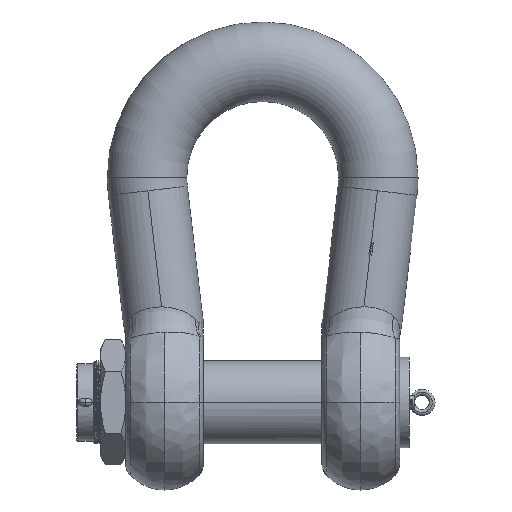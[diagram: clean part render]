
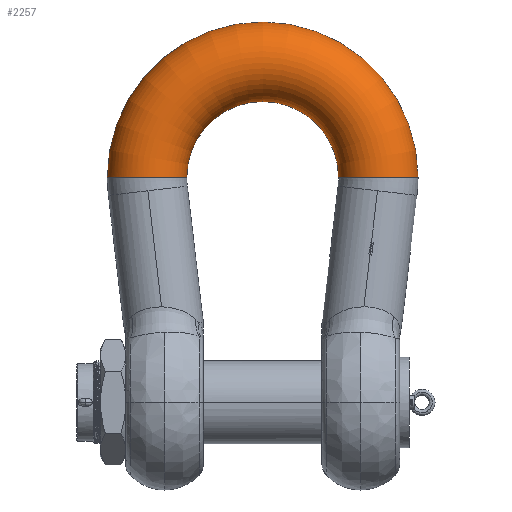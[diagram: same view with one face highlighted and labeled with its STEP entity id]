
A CAD part, front view. The second image highlights one B-rep face of the part: STEP entity #2257.
In plain terms, the highlighted toroidal (fillet/blend) face has major radius 320 mm and minor radius 109.995 mm.
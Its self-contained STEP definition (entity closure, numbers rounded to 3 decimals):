
#2257=ADVANCED_FACE('',(#5359),#5360,.T.);
#5359=FACE_OUTER_BOUND('',#12112,.T.);
#5360=TOROIDAL_SURFACE('',#12113,320.0,109.995);
#12112=EDGE_LOOP('',(#37806,#37807,#37808,#37809));
#12113=AXIS2_PLACEMENT_3D('',#37810,#37811,#37812);
#37806=ORIENTED_EDGE('',*,*,#50098,.T.);
#37807=ORIENTED_EDGE('',*,*,#50099,.F.);
#37808=ORIENTED_EDGE('',*,*,#50100,.T.);
#37809=ORIENTED_EDGE('',*,*,#49952,.F.);
#37810=CARTESIAN_POINT('',(0.0,0.0,623.0));
#37811=DIRECTION('',(0.0,-1.0,0.0));
#37812=DIRECTION('',(1.0,0.0,0.0));
#49952=EDGE_CURVE('',#57828,#57827,#57830,.F.);
#50098=EDGE_CURVE('',#57828,#58027,#58028,.F.);
#50099=EDGE_CURVE('',#58029,#58027,#58030,.T.);
#50100=EDGE_CURVE('',#58029,#57827,#58031,.T.);
#57827=VERTEX_POINT('',#73832);
#57828=VERTEX_POINT('',#73833);
#57830=CIRCLE('',#73835,109.995);
#58027=VERTEX_POINT('',#74325);
#58028=CIRCLE('',#74326,210.005);
#58029=VERTEX_POINT('',#74327);
#58030=B_SPLINE_CURVE_WITH_KNOTS('',5,(#74328,#74329,#74330,#74331,#74332,#74333,#74334,#74335,#74336,#74337,#74338,#74339,#74340,#74341,#74342,#74343,#74344,#74345,#74346,#74347,#74348,#74349,#74350,#74351),.UNSPECIFIED.,.F.,.F.,(6,3,3,3,3,3,3,6),(0.,72.661,145.323,217.984,290.645,363.307,435.968,488.691),.UNSPECIFIED.);
#58031=CIRCLE('',#74352,429.995);
#73832=CARTESIAN_POINT('',(-429.995,0.0,623.0));
#73833=CARTESIAN_POINT('',(-210.005,0.,623.0));
#73835=AXIS2_PLACEMENT_3D('',#109962,#109963,#109964);
#74325=CARTESIAN_POINT('',(210.005,0.,623.0));
#74326=AXIS2_PLACEMENT_3D('',#109975,#109976,#109977);
#74327=CARTESIAN_POINT('',(429.995,0.0,623.0));
#74328=CARTESIAN_POINT('',(429.995,0.,623.0));
#74329=CARTESIAN_POINT('',(429.995,-10.276,623.0));
#74330=CARTESIAN_POINT('',(428.795,-20.552,623.0));
#74331=CARTESIAN_POINT('',(426.395,-30.641,623.0));
#74332=CARTESIAN_POINT('',(419.283,-50.072,623.0));
#74333=CARTESIAN_POINT('',(407.886,-67.341,623.0));
#74334=CARTESIAN_POINT('',(401.199,-75.269,623.0));
#74335=CARTESIAN_POINT('',(386.099,-89.416,623.0));
#74336=CARTESIAN_POINT('',(368.146,-99.703,623.0));
#74337=CARTESIAN_POINT('',(358.606,-103.77,623.0));
#74338=CARTESIAN_POINT('',(338.754,-109.602,623.0));
#74339=CARTESIAN_POINT('',(318.092,-110.703,623.0));
#74340=CARTESIAN_POINT('',(307.742,-110.038,623.0));
#74341=CARTESIAN_POINT('',(287.39,-106.306,623.0));
#74342=CARTESIAN_POINT('',(268.446,-97.984,623.0));
#74343=CARTESIAN_POINT('',(259.504,-92.731,623.0));
#74344=CARTESIAN_POINT('',(243.013,-80.233,623.0));
#74345=CARTESIAN_POINT('',(229.846,-64.272,623.0));
#74346=CARTESIAN_POINT('',(224.227,-55.555,623.0));
#74347=CARTESIAN_POINT('',(216.379,-39.52,623.0));
#74348=CARTESIAN_POINT('',(211.9,-22.297,623.0));
#74349=CARTESIAN_POINT('',(210.637,-14.912,623.0));
#74350=CARTESIAN_POINT('',(210.005,-7.456,623.0));
#74351=CARTESIAN_POINT('',(210.005,0.,623.0));
#74352=AXIS2_PLACEMENT_3D('',#109978,#109979,#109980);
#109962=CARTESIAN_POINT('',(-320.0,0.0,623.0));
#109963=DIRECTION('',(0.,0.0,1.0));
#109964=DIRECTION('',(-1.0,0.0,0.));
#109975=CARTESIAN_POINT('',(0.0,0.,623.0));
#109976=DIRECTION('',(0.0,-1.0,0.0));
#109977=DIRECTION('',(-1.0,0.0,0.0));
#109978=CARTESIAN_POINT('',(0.0,0.,623.0));
#109979=DIRECTION('',(0.0,-1.0,0.0));
#109980=DIRECTION('',(-1.0,0.0,0.0));
